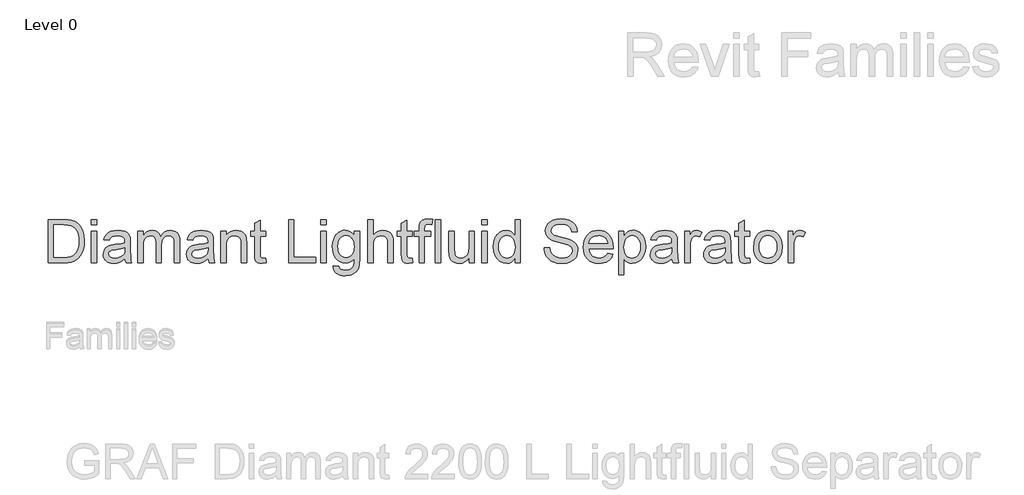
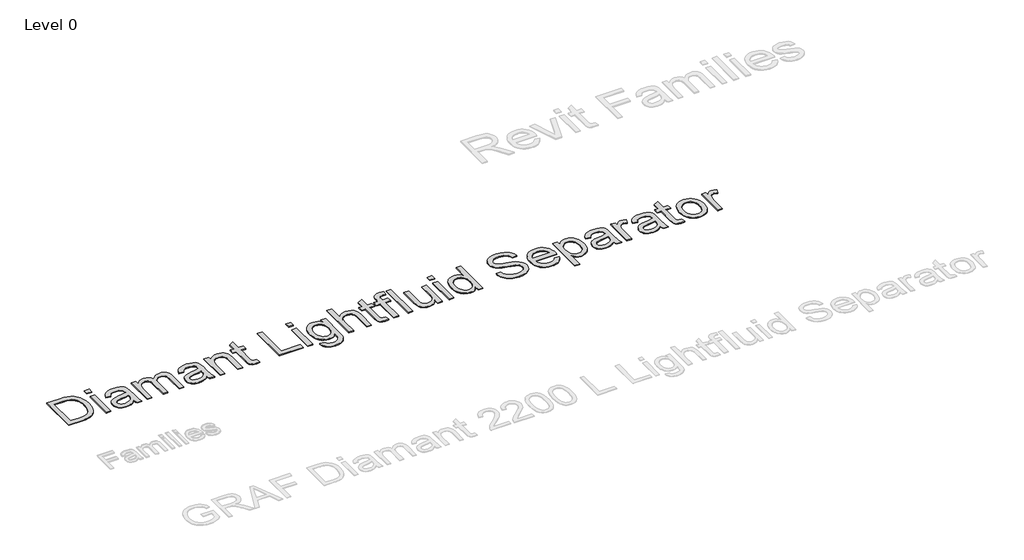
# One storey, part 6 of 8: 1 proxy.
"""IFC4 building model written with IfcOpenShell, lengths in millimetres."""

from ifc_helpers import new_model, si_unit, origin, origin_with_axes, place, context, project, spatial, polyline, outline, extrude, element, save

model = new_model("IFC4")

# Units and contexts
model_context = context("Model", 3, world=origin())
ifc_project = project(units=[si_unit("LENGTHUNIT", "METRE", prefix="MILLI")], contexts=[model_context])

# Site, building, storey
site = spatial("IfcSite", under=ifc_project)
building = spatial("IfcBuilding", under=site)
storey = spatial("IfcBuildingStorey", under=building, Name="Level 0", Elevation=0.0)

# Proxy
placement = place(None, origin())
element("IfcBuildingElementProxy", 1, Name="600mm Arial", ObjectType="600mm Arial", at=placement, inside=storey, context=model_context, shape_type="SweptSolid", body=[
    extrude(outline(polyline([(-15360.285907, 12653.8274553), (-15360.285907, 13156.1090061), (-15187.0134873, 13156.1090061), (-15135.2340965, 13154.3002529), (-15097.3729078, 13148.8739935), (-15057.335084, 13134.9251345), (-15023.5512541, 13112.9441853), (-15004.9348923, 13094.9792812), (-14988.8170624, 13074.6844578), (-14975.1977644, 13052.0597151), (-14964.0769982, 13027.1050531), (-14949.2697479, 12971.1256762), (-14944.3339978, 12907.666032), (-14947.6755926, 12853.7559913), (-14957.700377, 12806.3145423), (-14972.9674798, 12765.9241649), (-14992.0360299, 12733.167339), (-15013.9863222, 12707.3083004), (-15037.8986519, 12687.6112852), (-15065.3518458, 12673.0033043), (-15097.9247308, 12662.4113686), (-15135.6786206, 12655.9734336), (-15178.6748288, 12653.8274553), (-15360.285907, 12653.8274553)]), holes=[polyline([(-15297.5007132, 12716.6126492), (-15186.4003507, 12716.6126492), (-15140.4457581, 12718.8812548), (-15105.588939, 12725.6870717), (-15079.2853764, 12736.6315611), (-15058.990553, 12751.3161841), (-15037.1782164, 12778.4934665), (-15020.7921392, 12813.6721822), (-15010.5374285, 12857.0056156), (-15007.1191917, 12908.6470507), (-15008.7938212, 12945.098025), (-15013.8177097, 12977.0731018), (-15022.1908572, 13004.5722809), (-15033.9132637, 13027.5955624), (-15048.0345673, 13046.6641125), (-15063.6044063, 13062.2990973), (-15080.6227807, 13074.5005168), (-15099.0896905, 13083.268371), (-15135.2034397, 13090.8099519), (-15188.1171333, 13093.3238122), (-15297.5007132, 13093.3238122), (-15297.5007132, 12716.6126492)])]), origin_with_axes(), (0.0, 0.0, 1.0), 10.0),
    extrude(outline(polyline([(-14865.8525055, 12653.8274553), (-14865.8525055, 13022.6904692), (-14803.0673117, 13022.6904692), (-14803.0673117, 12653.8274553), (-14865.8525055, 12653.8274553)])), origin_with_axes(), (0.0, 0.0, 1.0), 10.0),
    extrude(outline(polyline([(-14865.8525055, 13093.3238122), (-14865.8525055, 13156.1090061), (-14803.0673117, 13156.1090061), (-14803.0673117, 13093.3238122), (-14865.8525055, 13093.3238122)])), origin_with_axes(), (0.0, 0.0, 1.0), 10.0),
    extrude(outline(polyline([(-14473.445044, 12700.9163507), (-14503.442755, 12675.1952679), (-14534.3295142, 12658.3646666), (-14566.8104287, 12649.0756462), (-14601.5906057, 12645.9793061), (-14629.5458052, 12647.8417087), (-14654.0597752, 12653.4289165), (-14675.1325158, 12662.7409295), (-14692.7640268, 12675.7777477), (-14706.686061, 12691.7116366), (-14716.6303712, 12709.7148618), (-14722.5969573, 12729.7874231), (-14724.5858194, 12751.9293207), (-14721.5814497, 12777.9569719), (-14712.5683409, 12801.5933901), (-14698.6654671, 12821.8268998), (-14680.9918029, 12837.6458256), (-14660.2217986, 12849.6019904), (-14637.0299045, 12858.2472173), (-14582.7059966, 12867.6895219), (-14518.5105884, 12877.6223357), (-14473.812926, 12889.2719322), (-14473.445044, 12903.2514481), (-14477.7676574, 12931.2717934), (-14490.7354978, 12949.6045795), (-14503.810637, 12957.5446992), (-14519.7368617, 12963.2162133), (-14560.1425675, 12967.7534246), (-14597.5439037, 12964.7337265), (-14623.6635254, 12955.6746324), (-14641.4751453, 12938.9206732), (-14653.9524763, 12912.8163799), (-14716.7376701, 12920.6645292), (-14705.839166, 12955.0001821), (-14689.5757162, 12981.978195), (-14666.4298073, 13002.6102436), (-14634.8839262, 13017.9080032), (-14596.302302, 13027.3809646), (-14552.0491636, 13030.5386184), (-14509.6047784, 13027.7488466), (-14475.9589043, 13019.3795312), (-14450.590375, 13006.7949013), (-14432.9780245, 12991.3591859), (-14421.2977712, 12972.2753074), (-14413.7255334, 12948.7461881), (-14410.6598502, 12893.8091435), (-14410.6598502, 12815.6955332), (-14407.4715395, 12706.6185216), (-14402.7503873, 12679.6558371), (-14394.9635517, 12653.8274553), (-14457.7487455, 12653.8274553), (-14467.8041867, 12675.6551204), (-14473.445044, 12700.9163507)]), holes=[polyline([(-14473.445044, 12826.4867384), (-14515.6288461, 12816.0327584), (-14574.73522, 12807.2342473), (-14628.7525596, 12797.0561788), (-14642.8087175, 12790.0970777), (-14653.2167123, 12780.501489), (-14659.6546472, 12769.0051767), (-14661.8006255, 12756.3439047), (-14657.1254585, 12737.6738934), (-14643.0999574, 12722.3761338), (-14620.0306907, 12712.1674084), (-14588.2242265, 12708.7644999), (-14554.5017103, 12712.519962), (-14524.7032687, 12723.7863481), (-14500.5456843, 12740.3870231), (-14483.7457399, 12760.1453519), (-14476.2961295, 12780.501489), (-14473.812926, 12808.7057753), (-14473.445044, 12826.4867384)])]), origin_with_axes(), (0.0, 0.0, 1.0), 10.0),
    extrude(outline(polyline([(-14324.3302086, 12653.8274553), (-14324.3302086, 13022.6904692), (-14261.5450148, 13022.6904692), (-14261.5450148, 12961.98994), (-14242.6604057, 12989.8723295), (-14218.380194, 13011.715323), (-14189.5321142, 13025.8327945), (-14156.9439008, 13030.5386184), (-14122.0257681, 13025.740824), (-14094.0360796, 13011.347441), (-14073.1281196, 12988.308831), (-14059.4551721, 12957.575356), (-14036.5698463, 12989.4967833), (-14010.4655531, 13012.2978028), (-13981.1422924, 13025.9784145), (-13948.6000642, 13030.5386184), (-13923.4652933, 13028.6417269), (-13901.4038699, 13022.9510522), (-13882.415794, 13013.4665946), (-13866.5010656, 13000.1883538), (-13853.9202678, 12982.9630458), (-13844.9339837, 12961.6373864), (-13839.5422132, 12936.2113756), (-13837.7449563, 12906.6850134), (-13837.7449563, 12653.8274553), (-13900.5301502, 12653.8274553), (-13900.5301502, 12879.7070004), (-13901.9863497, 12911.0229552), (-13906.3549484, 12932.1301847), (-13914.5403228, 12946.5848814), (-13927.4468495, 12957.943238), (-13944.0475245, 12965.3008779), (-13963.315344, 12967.7534246), (-13981.1078034, 12966.1822619), (-13997.3291002, 12961.4687738), (-14011.9792342, 12953.6129604), (-14025.0582055, 12942.6148215), (-14035.8149218, 12928.1524606), (-14043.4982906, 12909.9039808), (-14048.1083118, 12887.8693821), (-14049.6449856, 12862.0486646), (-14049.6449856, 12653.8274553), (-14112.4301794, 12653.8274553), (-14112.4301794, 12886.6967583), (-14116.0630141, 12922.1973708), (-14126.9615182, 12947.5199148), (-14135.3883152, 12956.3720753), (-14146.1373672, 12962.6950471), (-14174.6022366, 12967.7534246), (-14198.7904778, 12964.3811729), (-14221.0779953, 12954.2644181), (-14239.4720951, 12937.6484146), (-14251.9800829, 12914.7784172), (-14259.1537818, 12883.0485952), (-14261.5450148, 12839.8531176), (-14261.5450148, 12653.8274553), (-14324.3302086, 12653.8274553)])), origin_with_axes(), (0.0, 0.0, 1.0), 10.0),
    extrude(outline(polyline([(-13508.1226887, 12700.9163507), (-13538.1203997, 12675.1952679), (-13569.0071589, 12658.3646666), (-13601.4880733, 12649.0756462), (-13636.2682503, 12645.9793061), (-13664.2234498, 12647.8417087), (-13688.7374199, 12653.4289165), (-13709.8101604, 12662.7409295), (-13727.4416714, 12675.7777477), (-13741.3637057, 12691.7116366), (-13751.3080159, 12709.7148618), (-13757.274602, 12729.7874231), (-13759.263464, 12751.9293207), (-13756.2590944, 12777.9569719), (-13747.2459855, 12801.5933901), (-13733.3431118, 12821.8268998), (-13715.6694476, 12837.6458256), (-13694.8994433, 12849.6019904), (-13671.7075492, 12858.2472173), (-13617.3836412, 12867.6895219), (-13553.1882331, 12877.6223357), (-13508.4905707, 12889.2719322), (-13508.1226887, 12903.2514481), (-13512.4453021, 12931.2717934), (-13525.4131424, 12949.6045795), (-13538.4882817, 12957.5446992), (-13554.4145064, 12963.2162133), (-13594.8202122, 12967.7534246), (-13632.2215484, 12964.7337265), (-13658.34117, 12955.6746324), (-13676.15279, 12938.9206732), (-13688.630121, 12912.8163799), (-13751.4153148, 12920.6645292), (-13740.5168107, 12955.0001821), (-13724.2533608, 12981.978195), (-13701.107452, 13002.6102436), (-13669.5615709, 13017.9080032), (-13630.9799466, 13027.3809646), (-13586.7268083, 13030.5386184), (-13544.2824231, 13027.7488466), (-13510.636549, 13019.3795312), (-13485.2680197, 13006.7949013), (-13467.6556692, 12991.3591859), (-13455.9754158, 12972.2753074), (-13448.4031781, 12948.7461881), (-13445.3374948, 12893.8091435), (-13445.3374948, 12815.6955332), (-13442.1491842, 12706.6185216), (-13437.4280319, 12679.6558371), (-13429.6411964, 12653.8274553), (-13492.4263902, 12653.8274553), (-13502.4818314, 12675.6551204), (-13508.1226887, 12700.9163507)]), holes=[polyline([(-13508.1226887, 12826.4867384), (-13550.3064908, 12816.0327584), (-13609.4128647, 12807.2342473), (-13663.4302043, 12797.0561788), (-13677.4863622, 12790.0970777), (-13687.894357, 12780.501489), (-13694.3322919, 12769.0051767), (-13696.4782702, 12756.3439047), (-13691.8031032, 12737.6738934), (-13677.7776021, 12722.3761338), (-13654.7083353, 12712.1674084), (-13622.9018712, 12708.7644999), (-13589.1793549, 12712.519962), (-13559.3809133, 12723.7863481), (-13535.223329, 12740.3870231), (-13518.4233845, 12760.1453519), (-13510.9737741, 12780.501489), (-13508.4905707, 12808.7057753), (-13508.1226887, 12826.4867384)])]), origin_with_axes(), (0.0, 0.0, 1.0), 10.0),
    extrude(outline(polyline([(-13359.0078533, 12653.8274553), (-13359.0078533, 13022.6904692), (-13296.2226594, 13022.6904692), (-13296.2226594, 12971.1869898), (-13274.4103228, 12997.1533273), (-13248.2140591, 13015.7007113), (-13217.6338682, 13026.8291416), (-13182.6697503, 13030.5386184), (-13151.7216774, 13027.5495772), (-13123.3794354, 13018.5824536), (-13099.7430172, 13004.7562219), (-13082.9124159, 12987.1898566), (-13071.4927456, 12965.929343), (-13064.0891205, 12941.0206662), (-13060.7781825, 12880.320137), (-13060.7781825, 12653.8274553), (-13123.5633764, 12653.8274553), (-13123.5633764, 12871.8588511), (-13125.3721295, 12904.3244372), (-13130.7983889, 12927.4090324), (-13140.8078449, 12943.9483938), (-13156.3661876, 12956.7782784), (-13176.3084574, 12965.009638), (-13199.4696947, 12967.7534246), (-13218.5344127, 12966.2129187), (-13236.2425658, 12961.5914011), (-13252.5941541, 12953.8888719), (-13267.5891775, 12943.1053309), (-13280.1163258, 12928.0145049), (-13289.0642889, 12907.3901205), (-13294.4330668, 12881.2321778), (-13296.2226594, 12849.5406768), (-13296.2226594, 12653.8274553), (-13359.0078533, 12653.8274553)])), origin_with_axes(), (0.0, 0.0, 1.0), 10.0),
    extrude(outline(polyline([(-12841.0300041, 12706.189326), (-12833.1818548, 12651.9880454), (-12880.1481229, 12645.9793061), (-12910.2837897, 12648.5851369), (-12932.7552482, 12656.4026293), (-12948.6354877, 12668.4507646), (-12958.9974972, 12683.7485243), (-12964.6996681, 12710.0214301), (-12966.6003918, 12754.995004), (-12966.6003918, 12959.9052753), (-13013.6892871, 12959.9052753), (-13013.6892871, 13022.6904692), (-12966.6003918, 13022.6904692), (-12966.6003918, 13112.3310487), (-12903.8151979, 13149.2418755), (-12903.8151979, 13022.6904692), (-12841.0300041, 13022.6904692), (-12841.0300041, 12959.9052753), (-12903.8151979, 12959.9052753), (-12903.8151979, 12756.834414), (-12900.50426, 12724.4607984), (-12889.7743684, 12712.9951429), (-12868.375899, 12708.7644999), (-12841.0300041, 12706.189326)])), origin_with_axes(), (0.0, 0.0, 1.0), 10.0),
    extrude(outline(polyline([(-12574.1929302, 12653.8274553), (-12574.1929302, 13156.1090061), (-12511.4077364, 13156.1090061), (-12511.4077364, 12716.6126492), (-12260.266961, 12716.6126492), (-12260.266961, 12653.8274553), (-12574.1929302, 12653.8274553)])), origin_with_axes(), (0.0, 0.0, 1.0), 10.0),
    extrude(outline(polyline([(-12197.4817672, 13093.3238122), (-12197.4817672, 13156.1090061), (-12134.6965733, 13156.1090061), (-12134.6965733, 13093.3238122), (-12197.4817672, 13093.3238122)])), origin_with_axes(), (0.0, 0.0, 1.0), 10.0),
    extrude(outline(polyline([(-12197.4817672, 12653.8274553), (-12197.4817672, 13022.6904692), (-12134.6965733, 13022.6904692), (-12134.6965733, 12653.8274553), (-12197.4817672, 12653.8274553)])), origin_with_axes(), (0.0, 0.0, 1.0), 10.0),
    extrude(outline(polyline([(-12056.215081, 12622.4348584), (-11993.4298872, 12614.5867092), (-11986.5014429, 12594.9663361), (-11973.0737501, 12581.4773296), (-11946.678217, 12570.9926928), (-11912.1279662, 12567.4978138), (-11875.2784531, 12571.4525452), (-11847.8712444, 12583.3167396), (-11828.864008, 12602.323976), (-11817.2144115, 12627.7078337), (-11813.811503, 12654.7165035), (-11812.9224549, 12700.9163507), (-11833.8150865, 12680.314959), (-11857.129608, 12665.5996792), (-11882.8660192, 12656.7705113), (-11911.0243203, 12653.8274553), (-11945.4481115, 12657.2533564), (-11975.756223, 12667.5310597), (-12001.9486546, 12684.6605651), (-12024.0254064, 12708.6418726), (-12041.5419544, 12737.4133103), (-12054.0537743, 12768.9132062), (-12061.5608663, 12803.1415601), (-12064.0632303, 12840.0983722), (-12059.5720042, 12890.7894455), (-12046.0983262, 12937.40316), (-12024.1173769, 12976.9044892), (-12010.1148685, 12992.8498744), (-11994.1043375, 13006.2584067), (-11976.3425349, 13016.8809993), (-11957.0862117, 13024.4685655), (-11936.3353679, 13029.0211052), (-11914.0900036, 13030.5386184), (-11884.7284218, 13027.1050531), (-11858.0799698, 13016.8043572), (-11834.1446475, 12999.6365308), (-11812.9224549, 12975.6015738), (-11812.9224549, 13022.6904692), (-11750.137261, 13022.6904692), (-11750.137261, 12704.2272887), (-11754.4292176, 12630.6968749), (-11759.7941634, 12603.3471478), (-11767.3050875, 12582.2744073), (-11789.4853061, 12550.1613748), (-11821.6903091, 12525.5592663), (-11841.3758279, 12516.4388586), (-11863.2149893, 12509.9242816), (-11913.3542396, 12504.71262), (-11944.1145393, 12506.5481978), (-11971.7708347, 12512.0549314), (-11996.3231258, 12521.2328208), (-12017.7714125, 12534.0818659), (-12035.0963552, 12550.6173952), (-12047.2786142, 12570.854737), (-12054.3181895, 12594.7938914), (-12056.215081, 12622.4348584)]), holes=[polyline([(-12001.2780364, 12844.3903288), (-11999.6034069, 12813.3464534), (-11994.5795184, 12786.8014682), (-11986.2063709, 12764.7553732), (-11974.4839644, 12747.2081684), (-11960.2323692, 12733.8226288), (-11944.2716556, 12724.261529), (-11926.6018235, 12718.5248691), (-11907.222873, 12716.6126492), (-11888.0355277, 12718.5133728), (-11870.4500019, 12724.2155437), (-11854.4662956, 12733.719162), (-11840.0844089, 12747.0242274), (-11828.201054, 12764.3989875), (-11819.7129434, 12786.1116894), (-11814.620077, 12812.1623332), (-11812.9224549, 12842.5509189), (-11814.6698944, 12871.671078), (-11819.9122128, 12896.9821257), (-11828.6494102, 12918.4840619), (-11840.8814865, 12936.1768866), (-11855.5737737, 12949.991622), (-11871.6916036, 12959.8592901), (-11889.2349763, 12965.7798909), (-11908.2038916, 12967.7534246), (-11926.8547424, 12965.8105478), (-11944.0570577, 12959.9819174), (-11959.8108378, 12950.2675335), (-11974.1160824, 12936.667396), (-11985.9994373, 12919.2428185), (-11994.4875479, 12898.0551149), (-11999.5804143, 12873.104285), (-12001.2780364, 12844.3903288)])]), origin_with_axes(), (0.0, 0.0, 1.0), 10.0),
    extrude(outline(polyline([(-11655.9594703, 12653.8274553), (-11655.9594703, 13156.1090061), (-11593.1742764, 13156.1090061), (-11593.1742764, 12971.4322445), (-11570.1126739, 12997.2912831), (-11544.2153142, 13015.7620249), (-11515.4821976, 13026.84447), (-11483.9133239, 13030.5386184), (-11445.9908215, 13026.5072449), (-11413.4026081, 13014.4131243), (-11387.742839, 12995.2066184), (-11370.6056693, 12969.8380892), (-11360.948767, 12934.9812701), (-11357.7297995, 12887.3098949), (-11357.7297995, 12653.8274553), (-11420.5149934, 12653.8274553), (-11420.5149934, 12880.8106464), (-11425.5120571, 12920.1127062), (-11431.7583868, 12935.1192259), (-11440.5032484, 12947.0294055), (-11451.5397083, 12956.0961638), (-11464.6608328, 12962.5724198), (-11497.1570757, 12967.7534246), (-11523.6905646, 12964.2585456), (-11548.5992413, 12953.7739087), (-11569.2312899, 12937.3111895), (-11582.9348942, 12915.8820632), (-11590.6144309, 12887.4018654), (-11593.1742764, 12849.7859314), (-11593.1742764, 12653.8274553), (-11655.9594703, 12653.8274553)])), origin_with_axes(), (0.0, 0.0, 1.0), 10.0),
    extrude(outline(polyline([(-11137.9816211, 12706.189326), (-11130.1334718, 12651.9880454), (-11177.0997399, 12645.9793061), (-11207.2354067, 12648.5851369), (-11229.7068652, 12656.4026293), (-11245.5871047, 12668.4507646), (-11255.9491142, 12683.7485243), (-11261.6512851, 12710.0214301), (-11263.5520087, 12754.995004), (-11263.5520087, 12959.9052753), (-11310.6409041, 12959.9052753), (-11310.6409041, 13022.6904692), (-11263.5520087, 13022.6904692), (-11263.5520087, 13112.3310487), (-11200.7668149, 13149.2418755), (-11200.7668149, 13022.6904692), (-11137.9816211, 13022.6904692), (-11137.9816211, 12959.9052753), (-11200.7668149, 12959.9052753), (-11200.7668149, 12756.834414), (-11197.4558769, 12724.4607984), (-11186.7259854, 12712.9951429), (-11165.327516, 12708.7644999), (-11137.9816211, 12706.189326)])), origin_with_axes(), (0.0, 0.0, 1.0), 10.0),
    extrude(outline(polyline([(-11059.5001288, 12653.8274553), (-11059.5001288, 12959.9052753), (-11114.4371734, 12959.9052753), (-11114.4371734, 13022.6904692), (-11059.5001288, 13022.6904692), (-11059.5001288, 13059.8465507), (-11057.8446598, 13090.5953541), (-11052.8782528, 13112.2084213), (-11040.2476377, 13133.0857246), (-11020.7498919, 13149.6097575), (-10993.4653106, 13160.3703059), (-10957.4741888, 13163.9571553), (-10900.2072248, 13157.0900247), (-10909.4042747, 13098.2289055), (-10945.5793376, 13101.1719615), (-10969.445682, 13098.5661307), (-10985.1266521, 13090.7486383), (-10993.8178642, 13075.8187606), (-10996.7149349, 13051.8757741), (-10996.7149349, 13022.6904692), (-10926.0815918, 13022.6904692), (-10926.0815918, 12959.9052753), (-10996.7149349, 12959.9052753), (-10996.7149349, 12653.8274553), (-11059.5001288, 12653.8274553)])), origin_with_axes(), (0.0, 0.0, 1.0), 10.0),
    extrude(outline(polyline([(-10871.1445472, 12653.8274553), (-10871.1445472, 13156.1090061), (-10808.3593534, 13156.1090061), (-10808.3593534, 12653.8274553), (-10871.1445472, 12653.8274553)])), origin_with_axes(), (0.0, 0.0, 1.0), 10.0),
    extrude(outline(polyline([(-10478.7370857, 12653.8274553), (-10478.7370857, 12717.2257858), (-10501.4537989, 12686.055451), (-10527.9106457, 12663.790926), (-10558.1076262, 12650.4322111), (-10592.0447402, 12645.9793061), (-10622.6249311, 12649.1063031), (-10651.0898004, 12658.4872939), (-10674.9714733, 12672.5894371), (-10691.8020746, 12689.8798909), (-10703.1297743, 12710.8798214), (-10710.5027427, 12736.1103949), (-10714.1815626, 12794.4810048), (-10714.1815626, 13022.6904692), (-10651.3963688, 13022.6904692), (-10651.3963688, 12824.0341918), (-10647.5949215, 12760.0227246), (-10638.4438569, 12738.6702405), (-10622.7628868, 12722.4374474), (-10601.5943437, 12712.1827368), (-10575.9805598, 12708.7644999), (-10548.8952479, 12712.2593789), (-10523.5573755, 12722.7440158), (-10502.6647438, 12739.2527203), (-10488.9151542, 12760.8198023), (-10481.2816028, 12790.3576608), (-10478.7370857, 12830.778695), (-10478.7370857, 13022.6904692), (-10415.9518919, 13022.6904692), (-10415.9518919, 12653.8274553), (-10478.7370857, 12653.8274553)])), origin_with_axes(), (0.0, 0.0, 1.0), 10.0),
    extrude(outline(polyline([(-10329.6222503, 12653.8274553), (-10329.6222503, 13022.6904692), (-10266.8370565, 13022.6904692), (-10266.8370565, 12653.8274553), (-10329.6222503, 12653.8274553)])), origin_with_axes(), (0.0, 0.0, 1.0), 10.0),
    extrude(outline(polyline([(-10329.6222503, 13093.3238122), (-10329.6222503, 13156.1090061), (-10266.8370565, 13156.1090061), (-10266.8370565, 13093.3238122), (-10329.6222503, 13093.3238122)])), origin_with_axes(), (0.0, 0.0, 1.0), 10.0),
    extrude(outline(polyline([(-9945.062938, 12653.8274553), (-9945.062938, 12713.0564566), (-9963.8479124, 12683.7102032), (-9986.6029467, 12662.7485937), (-10013.3280408, 12650.171628), (-10044.0231947, 12645.9793061), (-10084.6128415, 12652.049359), (-10121.7689231, 12670.2595178), (-10153.2228336, 12699.3375238), (-10176.7059677, 12738.0111186), (-10191.329277, 12784.7168035), (-10196.2037134, 12837.8910803), (-10191.7124874, 12890.4062351), (-10178.2388093, 12937.8323556), (-10168.1373829, 12958.9625777), (-10155.7980076, 12977.4716406), (-10141.2206835, 12993.3595443), (-10124.4054107, 13006.6262887), (-10086.4369231, 13024.560536), (-10044.2684494, 13030.5386184), (-10013.5503028, 13026.2619902), (-9986.3883488, 13013.4321056), (-9963.3650673, 12993.7657473), (-9945.062938, 12968.9796979), (-9945.062938, 13156.1090061), (-9882.2777442, 13156.1090061), (-9882.2777442, 12653.8274553), (-9945.062938, 12653.8274553)]), holes=[polyline([(-10133.4185196, 12838.1363349), (-10131.6480875, 12807.6902677), (-10126.3367912, 12781.3445519), (-10117.4846307, 12759.0991875), (-10105.0916059, 12740.9541745), (-10090.2920198, 12726.8711919), (-10074.2201752, 12716.8119186), (-10056.8760719, 12710.7763546), (-10038.2597101, 12708.7644999), (-10019.55521, 12710.6843841), (-10002.3145735, 12716.4440366), (-9986.5378009, 12726.0434574), (-9972.224892, 12739.4826465), (-9960.3415371, 12756.8689029), (-9951.8534265, 12778.3095255), (-9946.7605602, 12803.8045141), (-9945.062938, 12833.353869), (-9946.791217, 12865.7504772), (-9951.9760539, 12893.533232), (-9960.6174486, 12916.7021335), (-9972.7154013, 12935.2571816), (-9987.3425428, 12949.4742879), (-10003.5715037, 12959.6293638), (-10021.4022841, 12965.7224094), (-10040.8348841, 12967.7534246), (-10059.8191279, 12965.8028836), (-10077.1632311, 12959.9512606), (-10092.8671938, 12950.1985556), (-10106.9310159, 12936.5447686), (-10118.5192988, 12918.6909955), (-10126.7966437, 12896.3383322), (-10131.7630506, 12869.4867787), (-10133.4185196, 12838.1363349)])]), origin_with_axes(), (0.0, 0.0, 1.0), 10.0),
    extrude(outline(polyline([(-9607.5925211, 12826.4867384), (-9544.8073273, 12826.4867384), (-9537.6029715, 12791.6452478), (-9524.5738175, 12763.6402309), (-9504.2483373, 12741.414027), (-9475.1550029, 12723.9089754), (-9439.5930767, 12712.5506188), (-9399.8618212, 12708.7644999), (-9364.8823748, 12711.6309138), (-9334.2561987, 12720.2301555), (-9309.4394925, 12733.8417893), (-9291.8884556, 12751.7453797), (-9281.449804, 12772.3007862), (-9277.9702534, 12793.8678682), (-9280.5760842, 12814.8831271), (-9288.3935766, 12833.0473007), (-9304.2738161, 12848.5443297), (-9331.0678881, 12861.5581553), (-9422.4865639, 12885.5317986), (-9482.4973144, 12901.3967097), (-9520.8949976, 12916.4951999), (-9552.1496388, 12937.6177578), (-9574.2992006, 12963.2162133), (-9587.4969671, 12992.7387434), (-9591.8962227, 13025.6335251), (-9586.4546348, 13062.4063962), (-9570.1298713, 13096.6960639), (-9557.9935975, 13112.2237497), (-9543.3511277, 13125.7587415), (-9506.5475998, 13146.8506425), (-9462.3711035, 13159.6805271), (-9413.473455, 13163.9571553), (-9360.4984477, 13159.4812577), (-9314.1453163, 13146.0535649), (-9276.0695298, 13123.9499883), (-9260.7564418, 13109.7482105), (-9247.9265572, 13093.4464396), (-9230.1149372, 13056.4436422), (-9223.0332088, 13014.8423199), (-9285.8184027, 13014.8423199), (-9290.0183888, 13034.8765603), (-9297.3453719, 13052.3049698), (-9307.7993519, 13067.1275485), (-9321.3803289, 13079.3442964), (-9338.3412217, 13088.8938999), (-9358.9349492, 13095.7150452), (-9411.0209084, 13101.1719615), (-9464.3331408, 13095.7763589), (-9484.7122705, 13089.0318556), (-9500.9067425, 13079.5895511), (-9513.2461178, 13068.2388587), (-9522.0599572, 13055.7691919), (-9527.3482609, 13042.1805507), (-9529.1110288, 13027.4729351), (-9524.1139651, 13003.3460076), (-9509.1227738, 12983.9402323), (-9495.3578558, 12975.3103339), (-9473.6834749, 12966.5884649), (-9406.6063244, 12948.8688155), (-9337.3831957, 12932.0382142), (-9295.5059619, 12917.3535912), (-9259.7141094, 12894.5755643), (-9234.744119, 12866.4632485), (-9220.0748245, 12833.3232121), (-9215.1850596, 12795.4620235), (-9220.8105884, 12756.7577719), (-9237.687175, 12720.3527828), (-9265.1250405, 12689.0214995), (-9302.4344061, 12665.5383655), (-9347.3006811, 12650.869071), (-9397.4092745, 12645.9793061), (-9458.9222098, 12651.2522814), (-9485.5974866, 12657.8435004), (-9509.5519694, 12667.0712072), (-9530.9312783, 12678.9507299), (-9549.8810331, 12693.4973971), (-9566.401234, 12710.7112088), (-9580.4918808, 12730.592165), (-9591.8425732, 12752.4964721), (-9600.1429107, 12775.7803367), (-9605.3928934, 12800.4437588), (-9607.5925211, 12826.4867384)])), origin_with_axes(), (0.0, 0.0, 1.0), 10.0),
    extrude(outline(polyline([(-8870.6022575, 12763.7015446), (-8809.0433369, 12755.8533953), (-8818.4818094, 12731.1976374), (-8831.2235556, 12709.4696071), (-8847.2685755, 12690.6693043), (-8866.6168692, 12674.7967291), (-8889.0691672, 12662.1891065), (-8914.4262001, 12653.1836618), (-8942.687968, 12647.780395), (-8973.8544708, 12645.9793061), (-9012.8116412, 12649.0871425), (-9047.5228403, 12658.4106519), (-9077.988068, 12673.9498341), (-9104.2073244, 12695.7046891), (-9125.2915612, 12723.0697446), (-9140.3517304, 12755.4395281), (-9149.3878319, 12792.8140395), (-9152.3998658, 12835.193279), (-9149.3571751, 12879.0095574), (-9140.2291031, 12917.6295027), (-9125.0156497, 12951.0531148), (-9103.7168151, 12979.2803937), (-9077.5665366, 13001.705867), (-9047.7987518, 13017.7240622), (-9014.4134607, 13027.3349794), (-8977.4106634, 13030.5386184), (-8941.5996504, 13027.3426436), (-8909.2145385, 13017.7547191), (-8880.2553277, 13001.7748449), (-8854.722018, 12979.4030211), (-8833.8792037, 12951.2370558), (-8818.9914792, 12917.8747574), (-8810.0588445, 12879.3161258), (-8807.0812996, 12835.561161), (-8807.4491816, 12818.6385892), (-9089.6146719, 12818.6385892), (-9085.9780051, 12793.5842925), (-9078.7468246, 12771.6416643), (-9067.9211305, 12752.8107047), (-9053.5009227, 12737.0914136), (-9036.2832789, 12724.6983889), (-9017.0652768, 12715.8462284), (-8995.8469163, 12710.534932), (-8972.6281975, 12708.7644999), (-8939.2122496, 12712.0447811), (-8911.0692769, 12721.8856244), (-8888.1992796, 12738.9001667), (-8870.6022575, 12763.7015446)]), holes=[polyline([(-9089.6146719, 12881.423783), (-8869.8664935, 12881.423783), (-8878.3584362, 12914.5944762), (-8895.0050965, 12938.3228649), (-8912.1269377, 12951.1987348), (-8931.609355, 12960.3957846), (-8953.4523485, 12965.9140146), (-8977.6559181, 12967.7534246), (-9019.9776759, 12961.882641), (-9038.3909362, 12954.5441617), (-9054.9724507, 12944.2702905), (-9068.8868208, 12931.5362085), (-9079.2986476, 12916.8170966), (-9086.2079314, 12900.1129548), (-9089.6146719, 12881.423783)])]), origin_with_axes(), (0.0, 0.0, 1.0), 10.0),
    extrude(outline(polyline([(-8744.2961058, 12512.5607692), (-8744.2961058, 13022.6904692), (-8681.5109119, 13022.6904692), (-8681.5109119, 12961.1315486), (-8661.0321475, 12991.4971417), (-8638.1008365, 13013.186851), (-8611.3680782, 13026.2006765), (-8579.4849719, 13030.5386184), (-8557.588329, 13029.0211052), (-8537.0252583, 13024.4685655), (-8517.7957599, 13016.8809993), (-8499.8998337, 13006.2584067), (-8483.7283543, 12992.8766991), (-8469.6721964, 12977.0117881), (-8447.905845, 12937.8323556), (-8434.7540637, 12891.5711947), (-8430.3701366, 12841.0793909), (-8435.3212151, 12787.383948), (-8450.1744506, 12739.3600192), (-8461.1955821, 12718.0841772), (-8474.4546623, 12699.4448227), (-8489.9516914, 12683.4419559), (-8507.6866692, 12670.0755768), (-8546.3909208, 12652.0033738), (-8587.0878665, 12645.9793061), (-8615.9512747, 12650.0106796), (-8641.7183428, 12662.1048002), (-8663.7759341, 12680.3609442), (-8681.5109119, 12702.878388), (-8681.5109119, 12512.5607692), (-8744.2961058, 12512.5607692)]), holes=[polyline([(-8681.5109119, 12835.3159063), (-8679.8132898, 12805.0576122), (-8674.7204234, 12779.029961), (-8666.2323128, 12757.2329528), (-8654.348958, 12739.6665875), (-8640.0437133, 12726.1469242), (-8624.2899333, 12716.4900218), (-8607.0876179, 12710.6958804), (-8588.4367672, 12708.7644999), (-8569.5176691, 12710.7648583), (-8552.0011212, 12716.7659333), (-8535.8871234, 12726.7677251), (-8521.1756757, 12740.7702335), (-8508.9167746, 12758.9727281), (-8500.1604167, 12781.5744782), (-8494.906602, 12808.5754838), (-8493.1553304, 12839.9757449), (-8494.8644488, 12869.9734559), (-8499.9918041, 12895.9551218), (-8508.5373963, 12917.9207426), (-8520.5012254, 12935.8703183), (-8534.840959, 12949.8191773), (-8550.5142648, 12959.782648), (-8567.5211429, 12965.7607304), (-8585.8615932, 12967.7534246), (-8604.1445619, 12965.634271), (-8621.3468773, 12959.2768102), (-8637.4685393, 12948.6810424), (-8652.509548, 12933.8469673), (-8665.1976447, 12914.9738546), (-8674.2605709, 12892.2609735), (-8679.6983267, 12865.708324), (-8681.5109119, 12835.3159063)])]), origin_with_axes(), (0.0, 0.0, 1.0), 10.0),
    extrude(outline(polyline([(-8124.2923166, 12700.9163507), (-8154.2900276, 12675.1952679), (-8185.1767868, 12658.3646666), (-8217.6577013, 12649.0756462), (-8252.4378782, 12645.9793061), (-8280.3930778, 12647.8417087), (-8304.9070478, 12653.4289165), (-8325.9797883, 12662.7409295), (-8343.6112994, 12675.7777477), (-8357.5333336, 12691.7116366), (-8367.4776438, 12709.7148618), (-8373.4442299, 12729.7874231), (-8375.4330919, 12751.9293207), (-8372.4287223, 12777.9569719), (-8363.4156134, 12801.5933901), (-8349.5127397, 12821.8268998), (-8331.8390755, 12837.6458256), (-8311.0690712, 12849.6019904), (-8287.8771771, 12858.2472173), (-8233.5532691, 12867.6895219), (-8169.357861, 12877.6223357), (-8124.6601986, 12889.2719322), (-8124.2923166, 12903.2514481), (-8128.61493, 12931.2717934), (-8141.5827703, 12949.6045795), (-8154.6579096, 12957.5446992), (-8170.5841343, 12963.2162133), (-8210.9898401, 12967.7534246), (-8248.3911763, 12964.7337265), (-8274.5107979, 12955.6746324), (-8292.3224179, 12938.9206732), (-8304.7997489, 12912.8163799), (-8367.5849427, 12920.6645292), (-8356.6864386, 12955.0001821), (-8340.4229887, 12981.978195), (-8317.2770799, 13002.6102436), (-8285.7311988, 13017.9080032), (-8247.1495745, 13027.3809646), (-8202.8964362, 13030.5386184), (-8160.452051, 13027.7488466), (-8126.8061769, 13019.3795312), (-8101.4376476, 13006.7949013), (-8083.8252971, 12991.3591859), (-8072.1450438, 12972.2753074), (-8064.572806, 12948.7461881), (-8061.5071227, 12893.8091435), (-8061.5071227, 12815.6955332), (-8058.3188121, 12706.6185216), (-8053.5976598, 12679.6558371), (-8045.8108243, 12653.8274553), (-8108.5960181, 12653.8274553), (-8118.6514593, 12675.6551204), (-8124.2923166, 12700.9163507)]), holes=[polyline([(-8124.2923166, 12826.4867384), (-8166.4761187, 12816.0327584), (-8225.5824926, 12807.2342473), (-8279.5998322, 12797.0561788), (-8293.6559901, 12790.0970777), (-8304.0639849, 12780.501489), (-8310.5019198, 12769.0051767), (-8312.6478981, 12756.3439047), (-8307.9727311, 12737.6738934), (-8293.94723, 12722.3761338), (-8270.8779632, 12712.1674084), (-8239.0714991, 12708.7644999), (-8205.3489828, 12712.519962), (-8175.5505412, 12723.7863481), (-8151.3929569, 12740.3870231), (-8134.5930124, 12760.1453519), (-8127.143402, 12780.501489), (-8124.6601986, 12808.7057753), (-8124.2923166, 12826.4867384)])]), origin_with_axes(), (0.0, 0.0, 1.0), 10.0),
    extrude(outline(polyline([(-7975.1774812, 12653.8274553), (-7975.1774812, 13022.6904692), (-7920.2404366, 13022.6904692), (-7920.2404366, 12968.1213065), (-7899.9456132, 12999.7591581), (-7881.2449451, 13018.3985126), (-7862.4829633, 13027.5035919), (-7842.0041989, 13030.5386184), (-7810.7342294, 13025.6948388), (-7778.9737504, 13011.1635), (-7799.9430242, 12954.8775547), (-7822.0159439, 12964.5344571), (-7844.0888636, 12967.7534246), (-7862.8355169, 12964.6570844), (-7879.5894761, 12955.368064), (-7893.1244679, 12940.5914706), (-7902.2142188, 12921.0324112), (-7909.8477702, 12885.9609943), (-7912.3922874, 12847.7012668), (-7912.3922874, 12653.8274553), (-7975.1774812, 12653.8274553)])), origin_with_axes(), (0.0, 0.0, 1.0), 10.0),
    extrude(outline(polyline([(-7504.2885274, 12700.9163507), (-7534.2862384, 12675.1952679), (-7565.1729976, 12658.3646666), (-7597.6539121, 12649.0756462), (-7632.434089, 12645.9793061), (-7660.3892886, 12647.8417087), (-7684.9032586, 12653.4289165), (-7705.9759991, 12662.7409295), (-7723.6075102, 12675.7777477), (-7737.5295444, 12691.7116366), (-7747.4738546, 12709.7148618), (-7753.4404407, 12729.7874231), (-7755.4293027, 12751.9293207), (-7752.4249331, 12777.9569719), (-7743.4118242, 12801.5933901), (-7729.5089505, 12821.8268998), (-7711.8352863, 12837.6458256), (-7691.065282, 12849.6019904), (-7667.8733879, 12858.2472173), (-7613.5494799, 12867.6895219), (-7549.3540718, 12877.6223357), (-7504.6564094, 12889.2719322), (-7504.2885274, 12903.2514481), (-7508.6111408, 12931.2717934), (-7521.5789811, 12949.6045795), (-7534.6541204, 12957.5446992), (-7550.5803451, 12963.2162133), (-7590.9860509, 12967.7534246), (-7628.3873871, 12964.7337265), (-7654.5070087, 12955.6746324), (-7672.3186287, 12938.9206732), (-7684.7959597, 12912.8163799), (-7747.5811535, 12920.6645292), (-7736.6826494, 12955.0001821), (-7720.4191995, 12981.978195), (-7697.2732907, 13002.6102436), (-7665.7274096, 13017.9080032), (-7627.1457853, 13027.3809646), (-7582.892647, 13030.5386184), (-7540.4482618, 13027.7488466), (-7506.8023877, 13019.3795312), (-7481.4338584, 13006.7949013), (-7463.8215079, 12991.3591859), (-7452.1412546, 12972.2753074), (-7444.5690168, 12948.7461881), (-7441.5033335, 12893.8091435), (-7441.5033335, 12815.6955332), (-7438.3150229, 12706.6185216), (-7433.5938706, 12679.6558371), (-7425.8070351, 12653.8274553), (-7488.5922289, 12653.8274553), (-7498.6476701, 12675.6551204), (-7504.2885274, 12700.9163507)]), holes=[polyline([(-7504.2885274, 12826.4867384), (-7546.4723295, 12816.0327584), (-7605.5787034, 12807.2342473), (-7659.596043, 12797.0561788), (-7673.6522009, 12790.0970777), (-7684.0601957, 12780.501489), (-7690.4981306, 12769.0051767), (-7692.6441089, 12756.3439047), (-7687.9689419, 12737.6738934), (-7673.9434408, 12722.3761338), (-7650.874174, 12712.1674084), (-7619.0677099, 12708.7644999), (-7585.3451936, 12712.519962), (-7555.546752, 12723.7863481), (-7531.3891677, 12740.3870231), (-7514.5892232, 12760.1453519), (-7507.1396128, 12780.501489), (-7504.6564094, 12808.7057753), (-7504.2885274, 12826.4867384)])]), origin_with_axes(), (0.0, 0.0, 1.0), 10.0),
    extrude(outline(polyline([(-7221.7551551, 12706.189326), (-7213.9070058, 12651.9880454), (-7260.8732739, 12645.9793061), (-7291.0089407, 12648.5851369), (-7313.4803992, 12656.4026293), (-7329.3606387, 12668.4507646), (-7339.7226482, 12683.7485243), (-7345.4248191, 12710.0214301), (-7347.3255428, 12754.995004), (-7347.3255428, 12959.9052753), (-7394.4144381, 12959.9052753), (-7394.4144381, 13022.6904692), (-7347.3255428, 13022.6904692), (-7347.3255428, 13112.3310487), (-7284.5403489, 13149.2418755), (-7284.5403489, 13022.6904692), (-7221.7551551, 13022.6904692), (-7221.7551551, 12959.9052753), (-7284.5403489, 12959.9052753), (-7284.5403489, 12756.834414), (-7281.229411, 12724.4607984), (-7270.4995194, 12712.9951429), (-7249.10105, 12708.7644999), (-7221.7551551, 12706.189326)])), origin_with_axes(), (0.0, 0.0, 1.0), 10.0),
    extrude(outline(polyline([(-7174.6662597, 12838.2589623), (-7171.2710154, 12886.0299722), (-7161.0852827, 12927.1944346), (-7144.1090615, 12961.7523495), (-7120.3423517, 12989.7037169), (-7096.4146936, 13007.5689863), (-7070.0038321, 13020.329893), (-7041.109767, 13027.9864371), (-7009.7324985, 13030.5386184), (-6975.0941094, 13027.430782), (-6943.7743225, 13018.1072726), (-6915.7731377, 13002.5680905), (-6891.0905551, 12980.8132354), (-6870.9451837, 12953.5784714), (-6856.5556328, 12921.5995626), (-6847.9219022, 12884.8765088), (-6845.043992, 12843.4093102), (-6850.1330263, 12779.9803228), (-6856.4943191, 12753.9450075), (-6865.4001291, 12731.695811), (-6876.7393252, 12712.4778088), (-6890.4007763, 12695.5360765), (-6906.3844826, 12680.8706141), (-6924.690444, 12668.4814215), (-6965.4180465, 12651.6048349), (-7009.7324985, 12645.9793061), (-7044.8767254, 12649.0756462), (-7076.4877522, 12658.3646666), (-7104.5655791, 12673.8463672), (-7129.110206, 12695.5207481), (-7149.0409795, 12723.0199273), (-7163.2772463, 12755.9760227), (-7171.8190063, 12794.3890343), (-7174.6662597, 12838.2589623)]), holes=[polyline([(-7111.8810658, 12838.3815896), (-7110.0646485, 12807.9278582), (-7104.6153964, 12781.5591497), (-7095.5333097, 12759.2754643), (-7082.8183882, 12741.0768019), (-7067.352016, 12726.9401698), (-7050.015577, 12716.8425754), (-7030.8090712, 12710.7840188), (-7009.7324985, 12708.7644999), (-6988.7632248, 12710.7955151), (-6969.633361, 12716.8885607), (-6952.3429073, 12727.0436366), (-6936.8918635, 12741.2607429), (-6924.176942, 12759.6395142), (-6915.0948553, 12782.2795853), (-6909.6456032, 12809.1809562), (-6907.8291859, 12840.3436269), (-6909.6570995, 12869.8316681), (-6915.1408405, 12895.5105977), (-6924.2804088, 12917.3804159), (-6937.0758045, 12935.4411226), (-6952.5843298, 12949.5777547), (-6969.8632873, 12959.6753491), (-6988.9126769, 12965.7339057), (-7009.7324985, 12967.7534246), (-7030.8090712, 12965.7415699), (-7050.015577, 12959.7060059), (-7067.352016, 12949.6467326), (-7082.8183882, 12935.56375), (-7095.5333097, 12917.418737), (-7104.6153964, 12895.1733726), (-7110.0646485, 12868.8276568), (-7111.8810658, 12838.3815896)])]), origin_with_axes(), (0.0, 0.0, 1.0), 10.0),
    extrude(outline(polyline([(-6774.4106489, 12653.8274553), (-6774.4106489, 13022.6904692), (-6719.4736043, 13022.6904692), (-6719.4736043, 12968.1213065), (-6699.1787809, 12999.7591581), (-6680.4781128, 13018.3985126), (-6661.7161311, 13027.5035919), (-6641.2373667, 13030.5386184), (-6609.9673971, 13025.6948388), (-6578.2069182, 13011.1635), (-6599.1761919, 12954.8775547), (-6621.2491116, 12964.5344571), (-6643.3220313, 12967.7534246), (-6662.0686847, 12964.6570844), (-6678.8226439, 12955.368064), (-6692.3576356, 12940.5914706), (-6701.4473866, 12921.0324112), (-6709.080938, 12885.9609943), (-6711.6254551, 12847.7012668), (-6711.6254551, 12653.8274553), (-6774.4106489, 12653.8274553)])), origin_with_axes(), (0.0, 0.0, 1.0), 10.0),
])

save(model, "model.ifc")
